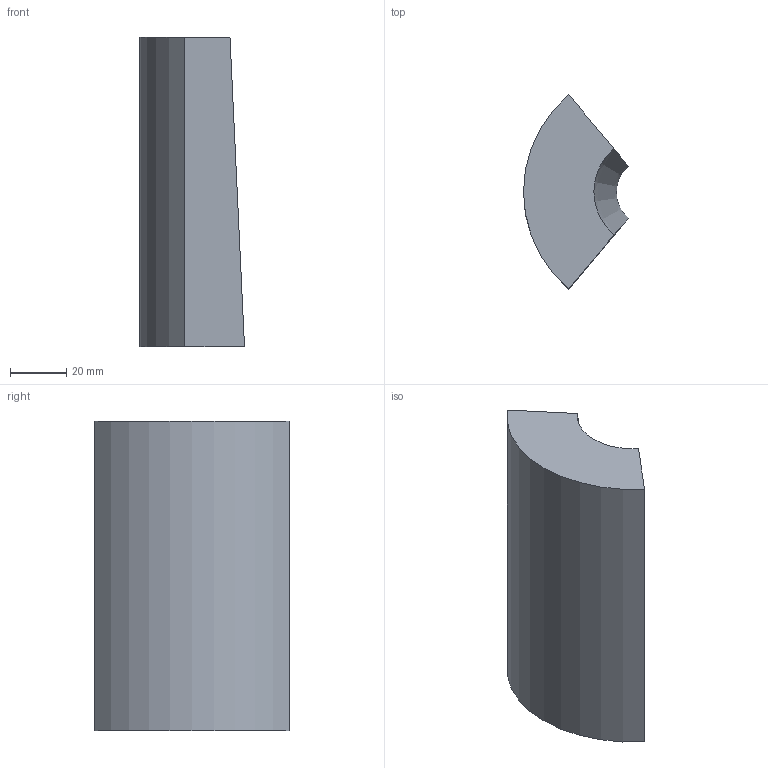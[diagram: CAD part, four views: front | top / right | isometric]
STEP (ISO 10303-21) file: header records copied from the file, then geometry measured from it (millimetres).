
FILE_DESCRIPTION(('Open CASCADE Model'),'2;1');
FILE_NAME('Open CASCADE Shape Model','2026-07-10T11:14:35',('Author'),( 'Open CASCADE'),'Open CASCADE STEP processor 7.9','Open CASCADE 7.9' ,'Unknown');
FILE_SCHEMA(('AUTOMOTIVE_DESIGN { 1 0 10303 214 1 1 1 1 }'));
Length unit declared in the file: millimetre
Products named in the file (1): Open CASCADE STEP translator 7.9 3
Bounding box: 37.29 x 68.94 x 110 mm (x, y, z)
Volume: 169299.8 mm3; surface area: 21158.8 mm2
Topology: 1 solids, 1 shells, 6 faces, 12 edges, 8 vertices
Faces by surface type: plane 4, cylinder 1, cone 1
Entity records: 314 total; most frequent: CARTESIAN_POINT 63, DIRECTION 42, ORIENTED_EDGE 24, PCURVE 24, DEFINITIONAL_REPRESENTATION 24, LINE 16, VECTOR 16, EDGE_CURVE 12
